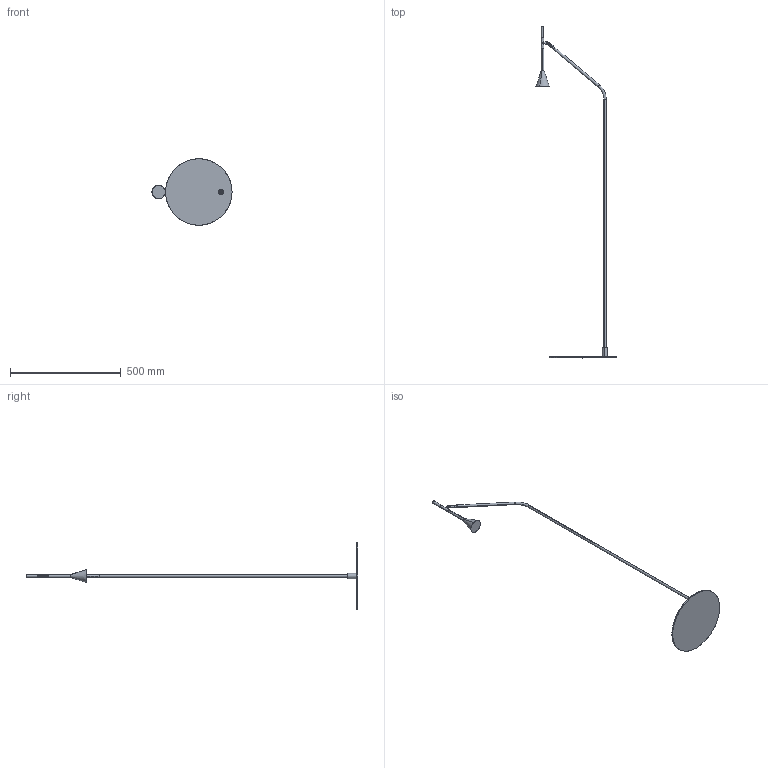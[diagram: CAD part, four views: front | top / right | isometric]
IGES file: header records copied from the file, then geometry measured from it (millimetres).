
Start section: SolidWorks IGES file using analytic representation for surfaces
Global section: file name: C:\Users\Agus\Desktop\NOVEDADES ENERO 2019\savia\Pie\P1274.IGS; native system: SolidWorks 2018; preprocessor: SolidWorks 2018; author: Agus; date: 190213.160645; units: millimetre
Bounding box: 361.33 x 1498.92 x 300 mm (x, y, z)
Surface area: 231099.3 mm2 (no closed solid volume)
Topology: 0 solids, 0 shells, 81 faces, 1844 edges, 1840 vertices
Faces by surface type: revolution 50, bspline 31
